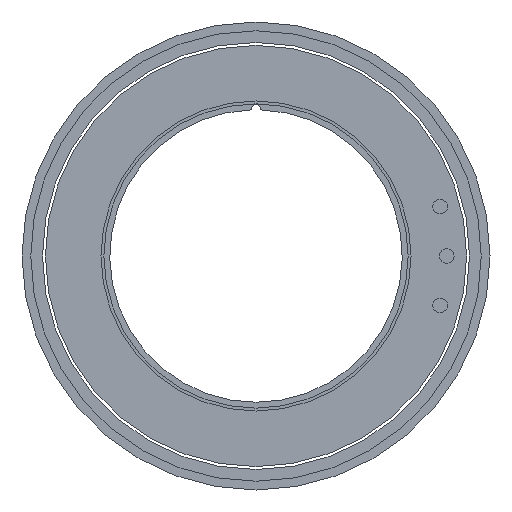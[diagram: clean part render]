
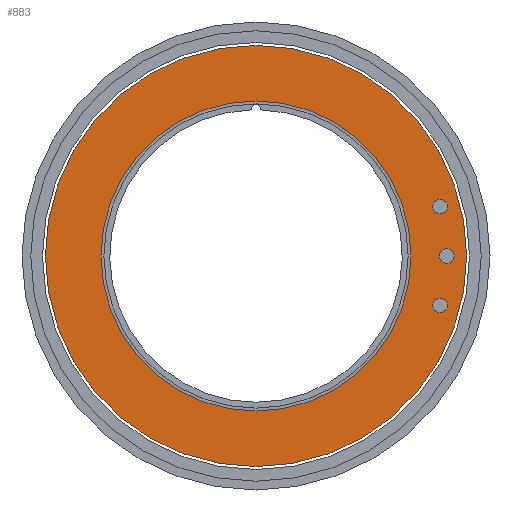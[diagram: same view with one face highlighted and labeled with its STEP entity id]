
A CAD part, front view. The second image highlights one B-rep face of the part: STEP entity #883.
In plain terms, the highlighted planar face has unit normal (0, -1, 0).
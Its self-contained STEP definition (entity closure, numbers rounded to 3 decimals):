
#5 = DIRECTION ( 'NONE',  ( 0., 1., 0. ) ) ;
#16 = AXIS2_PLACEMENT_3D ( 'NONE', #782, #605, #889 ) ;
#22 = DIRECTION ( 'NONE',  ( 0., -1., 0. ) ) ;
#38 = VERTEX_POINT ( 'NONE', #1140 ) ;
#67 = AXIS2_PLACEMENT_3D ( 'NONE', #1099, #642, #1000 ) ;
#68 = CARTESIAN_POINT ( 'NONE',  ( 31.487, -8., -8.437 ) ) ;
#86 = VERTEX_POINT ( 'NONE', #885 ) ;
#96 = CARTESIAN_POINT ( 'NONE',  ( 31.487, -8., -8.437 ) ) ;
#108 = EDGE_LOOP ( 'NONE', ( #185, #1034 ) ) ;
#118 = EDGE_CURVE ( 'NONE', #215, #1012, #484, .T. ) ;
#152 = CARTESIAN_POINT ( 'NONE',  ( 0., -8., -26.5 ) ) ;
#156 = ORIENTED_EDGE ( 'NONE', *, *, #863, .T. ) ;
#170 = DIRECTION ( 'NONE',  ( 0., 0., -1. ) ) ;
#181 = DIRECTION ( 'NONE',  ( 0., -1., 0. ) ) ;
#185 = ORIENTED_EDGE ( 'NONE', *, *, #594, .F. ) ;
#205 = ORIENTED_EDGE ( 'NONE', *, *, #785, .F. ) ;
#215 = VERTEX_POINT ( 'NONE', #289 ) ;
#225 = DIRECTION ( 'NONE',  ( 0., 0., 1. ) ) ;
#227 = CARTESIAN_POINT ( 'NONE',  ( 0., -8., 36. ) ) ;
#236 = AXIS2_PLACEMENT_3D ( 'NONE', #882, #5, #875 ) ;
#251 = EDGE_CURVE ( 'NONE', #718, #38, #791, .T. ) ;
#255 = CARTESIAN_POINT ( 'NONE',  ( 32.597, -8., 0. ) ) ;
#272 = VERTEX_POINT ( 'NONE', #851 ) ;
#287 = AXIS2_PLACEMENT_3D ( 'NONE', #1108, #687, #331 ) ;
#289 = CARTESIAN_POINT ( 'NONE',  ( 32.597, -8., -1.25 ) ) ;
#331 = DIRECTION ( 'NONE',  ( 0., 0., -1. ) ) ;
#332 = VERTEX_POINT ( 'NONE', #862 ) ;
#348 = CARTESIAN_POINT ( 'NONE',  ( 0., -8., 26.5 ) ) ;
#353 = PLANE ( 'NONE',  #236 ) ;
#371 = CARTESIAN_POINT ( 'NONE',  ( 0., -8., 0. ) ) ;
#405 = CIRCLE ( 'NONE', #16, 1.25 ) ;
#408 = CARTESIAN_POINT ( 'NONE',  ( 31.487, -8., 9.687 ) ) ;
#425 = CARTESIAN_POINT ( 'NONE',  ( 0., -8., 0. ) ) ;
#427 = ORIENTED_EDGE ( 'NONE', *, *, #843, .F. ) ;
#442 = FACE_BOUND ( 'NONE', #108, .T. ) ;
#465 = DIRECTION ( 'NONE',  ( 0., -1., 0. ) ) ;
#474 = DIRECTION ( 'NONE',  ( 0., -1., 0. ) ) ;
#484 = CIRCLE ( 'NONE', #731, 1.25 ) ;
#488 = EDGE_LOOP ( 'NONE', ( #584, #205 ) ) ;
#493 = ORIENTED_EDGE ( 'NONE', *, *, #118, .F. ) ;
#502 = CIRCLE ( 'NONE', #692, 1.25 ) ;
#510 = AXIS2_PLACEMENT_3D ( 'NONE', #425, #787, #170 ) ;
#515 = FACE_BOUND ( 'NONE', #1042, .T. ) ;
#562 = AXIS2_PLACEMENT_3D ( 'NONE', #68, #474, #225 ) ;
#566 = DIRECTION ( 'NONE',  ( 0., 0., 1. ) ) ;
#583 = EDGE_CURVE ( 'NONE', #662, #781, #992, .T. ) ;
#584 = ORIENTED_EDGE ( 'NONE', *, *, #583, .F. ) ;
#594 = EDGE_CURVE ( 'NONE', #759, #86, #712, .T. ) ;
#605 = DIRECTION ( 'NONE',  ( 0., -1., 0. ) ) ;
#642 = DIRECTION ( 'NONE',  ( 0., -1., 0. ) ) ;
#655 = CIRCLE ( 'NONE', #510, 36. ) ;
#662 = VERTEX_POINT ( 'NONE', #152 ) ;
#675 = CIRCLE ( 'NONE', #821, 1.25 ) ;
#684 = EDGE_CURVE ( 'NONE', #1012, #215, #675, .T. ) ;
#687 = DIRECTION ( 'NONE',  ( 0., -1., 0. ) ) ;
#688 = EDGE_LOOP ( 'NONE', ( #156, #950 ) ) ;
#692 = AXIS2_PLACEMENT_3D ( 'NONE', #96, #181, #971 ) ;
#697 = CARTESIAN_POINT ( 'NONE',  ( 0., -8., 0. ) ) ;
#712 = CIRCLE ( 'NONE', #67, 1.25 ) ;
#718 = VERTEX_POINT ( 'NONE', #227 ) ;
#730 = CIRCLE ( 'NONE', #916, 26.5 ) ;
#731 = AXIS2_PLACEMENT_3D ( 'NONE', #255, #22, #1001 ) ;
#759 = VERTEX_POINT ( 'NONE', #408 ) ;
#781 = VERTEX_POINT ( 'NONE', #348 ) ;
#782 = CARTESIAN_POINT ( 'NONE',  ( 31.487, -8., 8.437 ) ) ;
#785 = EDGE_CURVE ( 'NONE', #781, #662, #730, .T. ) ;
#787 = DIRECTION ( 'NONE',  ( 0., -1., 0. ) ) ;
#791 = CIRCLE ( 'NONE', #287, 36. ) ;
#804 = FACE_OUTER_BOUND ( 'NONE', #688, .T. ) ;
#821 = AXIS2_PLACEMENT_3D ( 'NONE', #1040, #1127, #566 ) ;
#843 = EDGE_CURVE ( 'NONE', #272, #332, #502, .T. ) ;
#851 = CARTESIAN_POINT ( 'NONE',  ( 31.487, -8., -9.687 ) ) ;
#854 = ORIENTED_EDGE ( 'NONE', *, *, #1086, .F. ) ;
#862 = CARTESIAN_POINT ( 'NONE',  ( 31.487, -8., -7.187 ) ) ;
#863 = EDGE_CURVE ( 'NONE', #38, #718, #655, .T. ) ;
#869 = EDGE_CURVE ( 'NONE', #86, #759, #405, .T. ) ;
#875 = DIRECTION ( 'NONE',  ( 0., 0., 1. ) ) ;
#882 = CARTESIAN_POINT ( 'NONE',  ( -36., -8., 0. ) ) ;
#883 = ADVANCED_FACE ( 'NONE', ( #515, #442, #1045, #956, #804 ), #353, .F. ) ;
#885 = CARTESIAN_POINT ( 'NONE',  ( 31.487, -8., 7.187 ) ) ;
#889 = DIRECTION ( 'NONE',  ( 0., 0., 1. ) ) ;
#916 = AXIS2_PLACEMENT_3D ( 'NONE', #697, #1051, #980 ) ;
#926 = CIRCLE ( 'NONE', #562, 1.25 ) ;
#950 = ORIENTED_EDGE ( 'NONE', *, *, #251, .T. ) ;
#956 = FACE_BOUND ( 'NONE', #488, .T. ) ;
#971 = DIRECTION ( 'NONE',  ( 0., 0., 1. ) ) ;
#979 = EDGE_LOOP ( 'NONE', ( #1132, #493 ) ) ;
#980 = DIRECTION ( 'NONE',  ( 0., 0., -1. ) ) ;
#992 = CIRCLE ( 'NONE', #1136, 26.5 ) ;
#1000 = DIRECTION ( 'NONE',  ( 0., 0., 1. ) ) ;
#1001 = DIRECTION ( 'NONE',  ( 0., 0., 1. ) ) ;
#1012 = VERTEX_POINT ( 'NONE', #1072 ) ;
#1034 = ORIENTED_EDGE ( 'NONE', *, *, #869, .F. ) ;
#1040 = CARTESIAN_POINT ( 'NONE',  ( 32.597, -8., 0. ) ) ;
#1042 = EDGE_LOOP ( 'NONE', ( #854, #427 ) ) ;
#1045 = FACE_BOUND ( 'NONE', #979, .T. ) ;
#1051 = DIRECTION ( 'NONE',  ( 0., -1., 0. ) ) ;
#1072 = CARTESIAN_POINT ( 'NONE',  ( 32.597, -8., 1.25 ) ) ;
#1085 = DIRECTION ( 'NONE',  ( 0., 0., -1. ) ) ;
#1086 = EDGE_CURVE ( 'NONE', #332, #272, #926, .T. ) ;
#1099 = CARTESIAN_POINT ( 'NONE',  ( 31.487, -8., 8.437 ) ) ;
#1108 = CARTESIAN_POINT ( 'NONE',  ( 0., -8., 0. ) ) ;
#1127 = DIRECTION ( 'NONE',  ( 0., -1., 0. ) ) ;
#1132 = ORIENTED_EDGE ( 'NONE', *, *, #684, .F. ) ;
#1136 = AXIS2_PLACEMENT_3D ( 'NONE', #371, #465, #1085 ) ;
#1140 = CARTESIAN_POINT ( 'NONE',  ( 0., -8., -36. ) ) ;
